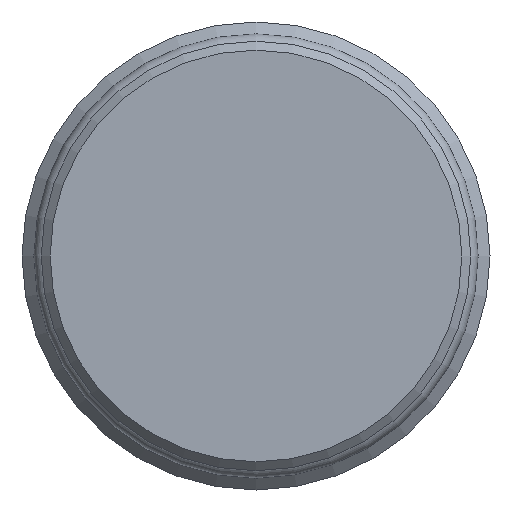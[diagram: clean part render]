
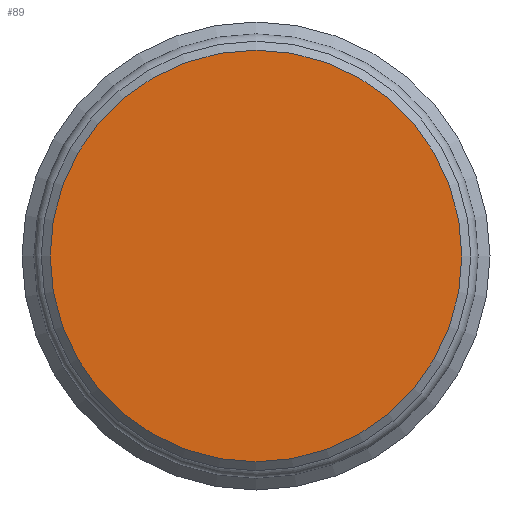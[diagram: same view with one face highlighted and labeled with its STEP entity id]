
A CAD part, left-side view. The second image highlights one B-rep face of the part: STEP entity #89.
In plain terms, the highlighted planar face has unit normal (-1, 0, 0).
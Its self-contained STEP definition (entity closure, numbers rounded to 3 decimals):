
#89 = ADVANCED_FACE( '', ( #198 ), #199, .F. );
#198 = FACE_OUTER_BOUND( '', #317, .T. );
#199 = PLANE( '', #318 );
#317 = EDGE_LOOP( '', ( #487 ) );
#318 = AXIS2_PLACEMENT_3D( '', #488, #489, #490 );
#487 = ORIENTED_EDGE( '', *, *, #653, .F. );
#488 = CARTESIAN_POINT( '', ( 0., 0., 0. ) );
#489 = DIRECTION( '', ( 1., 0., 0. ) );
#490 = DIRECTION( '', ( 0., 0., -1. ) );
#653 = EDGE_CURVE( '', #769, #769, #770, .T. );
#769 = VERTEX_POINT( '', #917 );
#770 = CIRCLE( '', #918, 6.95 );
#917 = CARTESIAN_POINT( '', ( 0., 0., -6.95 ) );
#918 = AXIS2_PLACEMENT_3D( '', #1026, #1027, #1028 );
#1026 = CARTESIAN_POINT( '', ( 0., 0., 0. ) );
#1027 = DIRECTION( '', ( 1., 0., 0. ) );
#1028 = DIRECTION( '', ( 0., 0., -1. ) );
